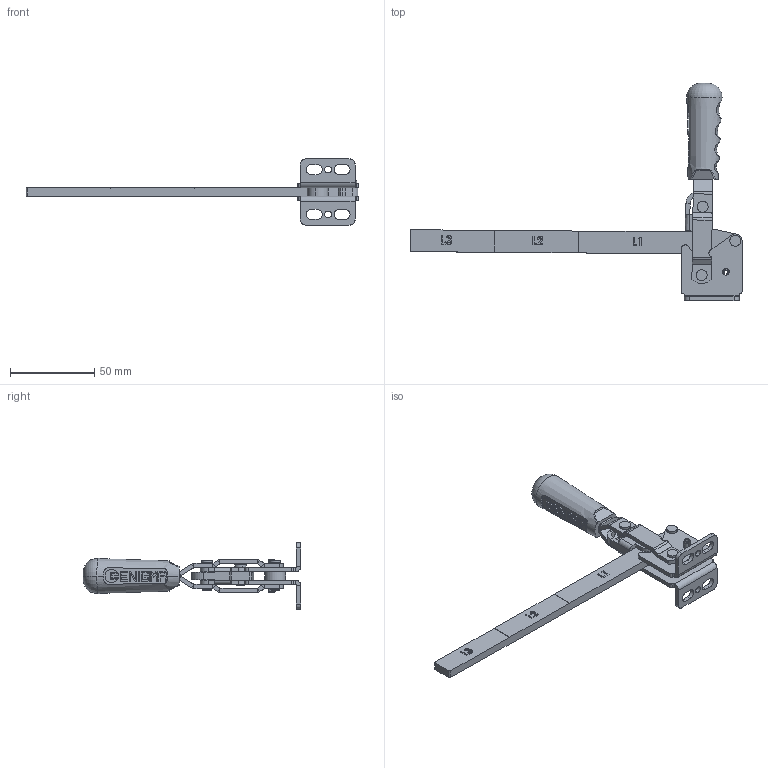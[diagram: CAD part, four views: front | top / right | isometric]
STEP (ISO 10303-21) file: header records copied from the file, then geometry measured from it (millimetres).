
FILE_DESCRIPTION (( 'STEP AP214' ), '1' );
FILE_NAME ('1102-Y-L.STEP', '2022-05-31T12:36:30', ( '' ), ( '' ), 'SwSTEP 2.0', 'SolidWorks 2020', '' );
FILE_SCHEMA (( 'AUTOMOTIVE_DESIGN' ));
Length unit declared in the file: millimetre
Products named in the file (13): 7x4x10_BURÇ; 4x12_5_PERﾇﾝN; 1102 MAFSAL_2022; 4x17_PERﾇﾝN; 1102 Y_GÖVDE_REV01_2022; 4x20_YARIKLI_P嵱; 1102-Y-L; Aynalama1102 Y_GÖVDE_REV01_2022; 1102 HAREKET KOLU_2022; Ø12,5xØ7,5x5_YÜZÜK; C55_Yeni_Tutamak; Aynalama1102 HAREKET KOLU_2022; 1102 LAMA BASKI KOLU
Assembly tree (14 placements, depth 2):
  1102-Y-L
    1102 Y_GÖVDE_REV01_2022
    1102 HAREKET KOLU_2022
    Aynalama1102 Y_GÖVDE_REV01_2022
    1102 MAFSAL_2022
    4x12_5_PERﾇﾝN  x2
    4x17_PERﾇﾝN  x2
    7x4x10_BURÇ
    4x20_YARIKLI_P嵱
    Ø12,5xØ7,5x5_YÜZÜK
    Aynalama1102 HAREKET KOLU_2022
    C55_Yeni_Tutamak
    1102 LAMA BASKI KOLU
Bounding box: 197.3 x 129.2 x 39.29 mm (x, y, z)
Volume: 42211.1 mm3; surface area: 31019.4 mm2
Topology: 14 solids, 14 shells, 813 faces, 2039 edges, 1288 vertices
Faces by surface type: plane 522, cylinder 212, torus 34, bspline 29, cone 16
Entity records: 23903 total; most frequent: CARTESIAN_POINT 6302, ORIENTED_EDGE 3518, DIRECTION 3487, EDGE_CURVE 1759, LINE 1201, VECTOR 1201, AXIS2_PLACEMENT_3D 1143, VERTEX_POINT 1112
